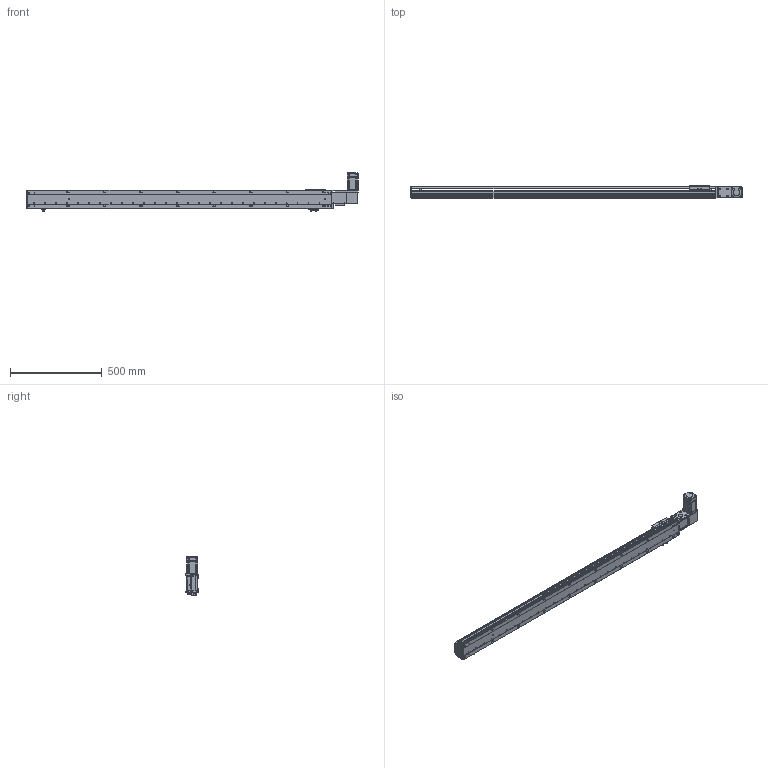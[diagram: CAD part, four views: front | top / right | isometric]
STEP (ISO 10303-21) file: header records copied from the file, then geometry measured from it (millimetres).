
FILE_DESCRIPTION (( 'STEP AP203' ), '1' );
FILE_NAME ('RY100-T-300-RK.SLDASM_1450.step', '2024-04-25T08:23:13', ( '盈信电脑' ), ( '东莞市道滘镇水果街19号' ), 'SwSTEP 2.0', 'SolidWorks 2016', '' );
FILE_SCHEMA (( 'CONFIG_CONTROL_DESIGN' ));
Length unit declared in the file: millimetre
Products named in the file (15): RY100-T-300-RK倰第奻裔_1450; RY100綴裔啣; 侂狟200W萇儂; 1; RY80-T肮祭謫俋欶; RY100-T粣創揤踡裔; RY100-T-300-RK倰第菁釱_1450; RY100-T肮祭謫翋盓傅釱; 覜茼ん672; RY100-T翋肮祭謫裔啣2; RY100-T左右折电机安装板; RY100-T肮祭謫臏賑輸; RY100-T-300-RK.SLDASM_1450; 滅袉蝶18-10; RY100俋离覜茼え
Assembly tree (18 placements, depth 3):
  RY100-T-300-RK.SLDASM_1450
    RY100-T-300-RK倰第菁釱_1450
    RY100-T-300-RK倰第奻裔_1450
    RY100-T肮祭謫臏賑輸
    RY100綴裔啣
    覜茼ん672  x3
    RY100俋离覜茼え
    RY100-T肮祭謫翋盓傅釱
    RY100-T左右折电机安装板
    侂狟200W萇儂
      1
    RY100-T粣創揤踡裔
    滅袉蝶18-10  x2
    RY100-T翋肮祭謫裔啣2  x2
    RY80-T肮祭謫俋欶
Bounding box: 1814 x 66 x 209.7 mm (x, y, z)
Volume: 3345358.8 mm3; surface area: 1397736.9 mm2
Topology: 17 solids, 17 shells, 2221 faces, 6194 edges, 4028 vertices
Faces by surface type: plane 1193, cylinder 817, cone 133, bspline 78
Entity records: 71290 total; most frequent: CARTESIAN_POINT 17247, ORIENTED_EDGE 11124, DIRECTION 10594, EDGE_CURVE 5562, VERTEX_POINT 3664, LINE 3570, VECTOR 3570, AXIS2_PLACEMENT_3D 3512
